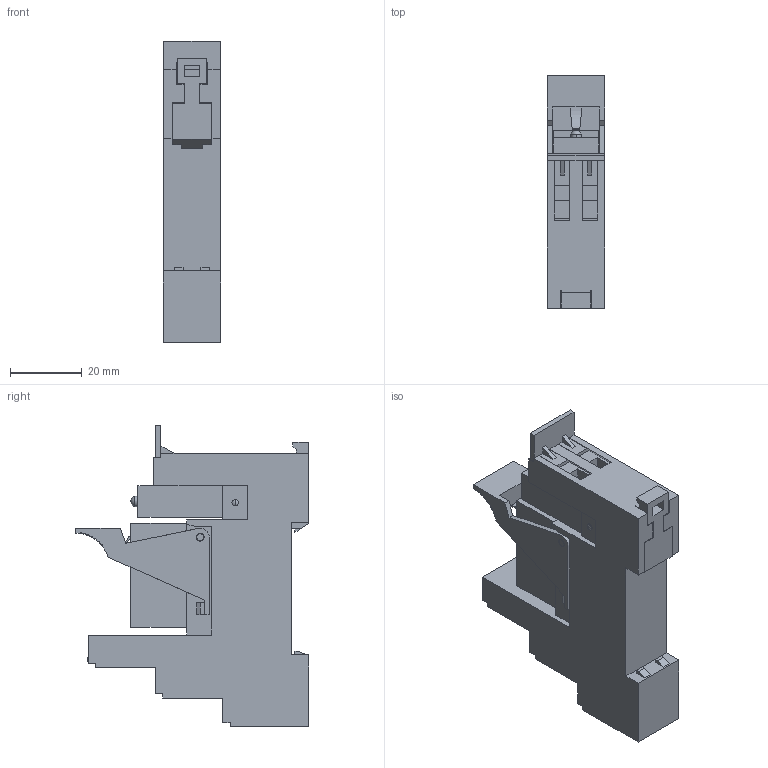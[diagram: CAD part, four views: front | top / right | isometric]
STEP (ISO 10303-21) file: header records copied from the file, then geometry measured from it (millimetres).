
FILE_DESCRIPTION (( 'STEP AP203' ), '1' );
FILE_NAME ('PRT7-2 - PRX-2R - PRR-1R.STEP', '2019-03-27T12:46:11', ( '' ), ( '' ), 'SwSTEP 2.0', 'SolidWorks 2012', '' );
FILE_SCHEMA (( 'CONFIG_CONTROL_DESIGN' ));
Length unit declared in the file: millimetre
Products named in the file (1): PRT7-2 - PRX-2R - PRR-1R
Bounding box: 15.9 x 64.75 x 83.8 mm (x, y, z)
Volume: 48342 mm3; surface area: 17245.1 mm2
Topology: 1 solids, 1 shells, 685 faces, 1833 edges, 1216 vertices
Faces by surface type: plane 542, bspline 87, cylinder 51, sphere 5
Entity records: 26785 total; most frequent: CARTESIAN_POINT 10105, ORIENTED_EDGE 3660, DIRECTION 2944, EDGE_CURVE 1830, VECTOR 1550, LINE 1550, VERTEX_POINT 1214, EDGE_LOOP 756
